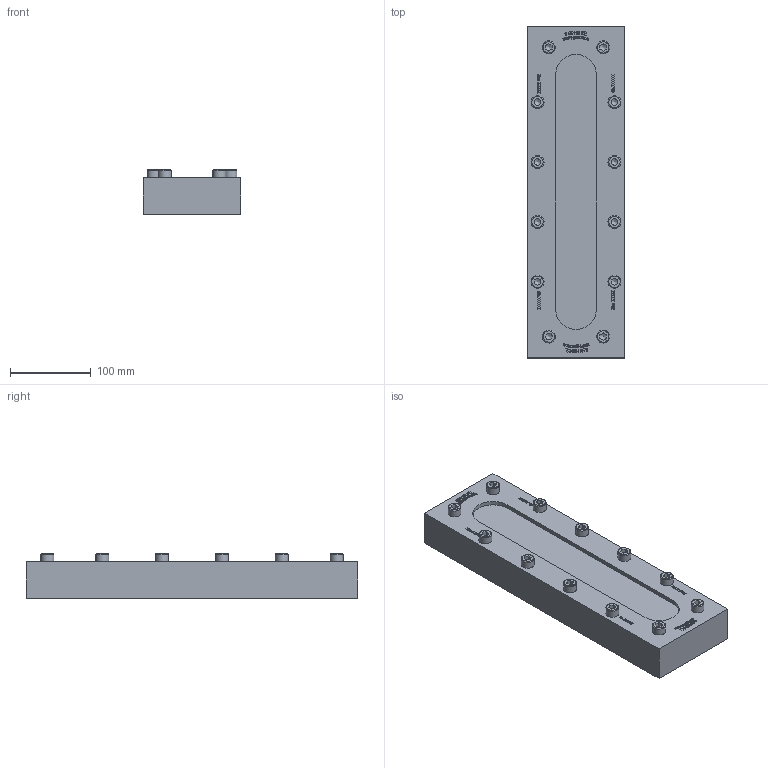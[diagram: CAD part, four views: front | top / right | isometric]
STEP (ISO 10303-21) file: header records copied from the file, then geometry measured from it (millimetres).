
FILE_DESCRIPTION(/* description */ (''),/* implementation_level */ '2;1');
FILE_NAME(/* name */ 'W:\Konstruktion_ACI\334\_Zeichnungen\STEP\ACI-334-410-3.stp',/* time_stamp */ '2022-03-02T16:31:48+01:00',/* author */ ('Travnicek'),/* organization */ ('ACI Industriearmaturen'),/* preprocessor_version */ 'ST-DEVELOPER v16.1',/* originating_system */ 'Autodesk Inventor 2016',/* authorisation */ '');
FILE_SCHEMA (('AUTOMOTIVE_DESIGN { 1 0 10303 214 3 1 1 }'));
Length unit declared in the file: centimetre
Products named in the file (1): 334
Bounding box: 120 x 410 x 54.96 mm (x, y, z)
Volume: 1840370.6 mm3; surface area: 172560.5 mm2
Topology: 1 solids, 1 shells, 1338 faces, 3672 edges, 2444 vertices
Faces by surface type: plane 926, bspline 372, cylinder 16, torus 12, cone 12
Full cylindrical faces by diameter (mm): 16 x12
Entity records: 44662 total; most frequent: CARTESIAN_POINT 12351, ORIENTED_EDGE 7224, DIRECTION 4774, EDGE_CURVE 3612, LINE 2752, VECTOR 2752, VERTEX_POINT 2420, EDGE_LOOP 1482
